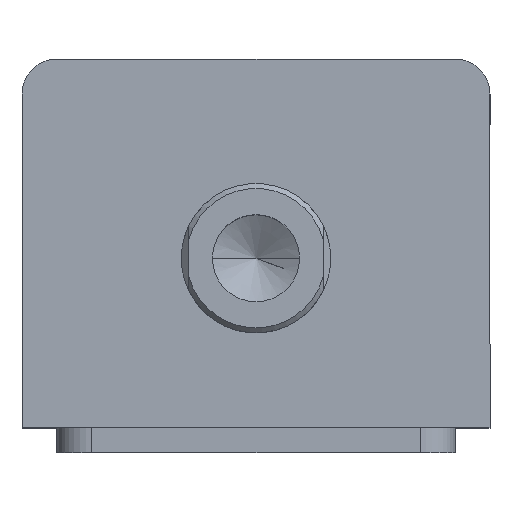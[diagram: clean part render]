
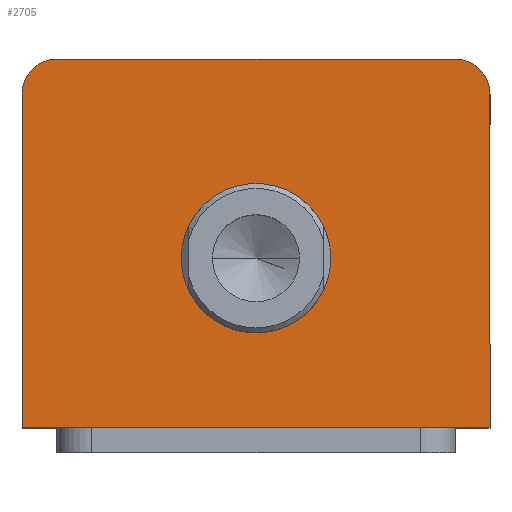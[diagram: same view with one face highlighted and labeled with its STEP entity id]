
A CAD part, top view. The second image highlights one B-rep face of the part: STEP entity #2705.
In plain terms, the highlighted planar face has unit normal (0, 0, 1).
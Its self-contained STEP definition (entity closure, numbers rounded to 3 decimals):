
#161 = LINE ( 'NONE', #2468, #165 ) ;
#165 = VECTOR ( 'NONE', #2492, 1000. ) ;
#173 = CIRCLE ( 'NONE', #2532, 7. ) ;
#201 = LINE ( 'NONE', #2376, #205 ) ;
#205 = VECTOR ( 'NONE', #2386, 1000. ) ;
#226 = CIRCLE ( 'NONE', #1841, 7. ) ;
#265 = LINE ( 'NONE', #997, #268 ) ;
#268 = VECTOR ( 'NONE', #995, 1000. ) ;
#556 = CIRCLE ( 'NONE', #897, 15. ) ;
#591 = LINE ( 'NONE', #956, #594 ) ;
#594 = VECTOR ( 'NONE', #954, 1000. ) ;
#603 = CIRCLE ( 'NONE', #883, 15. ) ;
#744 = FACE_BOUND ( 'NONE', #2213, .T. ) ;
#747 = FACE_OUTER_BOUND ( 'NONE', #2249, .T. ) ;
#818 = AXIS2_PLACEMENT_3D ( 'NONE', #1639, #1626, #1625 ) ;
#883 = AXIS2_PLACEMENT_3D ( 'NONE', #922, #921, #920 ) ;
#897 = AXIS2_PLACEMENT_3D ( 'NONE', #1032, #1031, #1030 ) ;
#920 = DIRECTION ( 'NONE',  ( 1., 0., 0. ) ) ;
#921 = DIRECTION ( 'NONE',  ( 0., 0., 1. ) ) ;
#922 = CARTESIAN_POINT ( 'NONE',  ( 0., -3., 70. ) ) ;
#954 = DIRECTION ( 'NONE',  ( 1., 0., 0. ) ) ;
#956 = CARTESIAN_POINT ( 'NONE',  ( -47., -37., 70. ) ) ;
#995 = DIRECTION ( 'NONE',  ( -1., 0., 0. ) ) ;
#997 = CARTESIAN_POINT ( 'NONE',  ( -47., 37., 70. ) ) ;
#1030 = DIRECTION ( 'NONE',  ( 1., 0., 0. ) ) ;
#1031 = DIRECTION ( 'NONE',  ( 0., 0., 1. ) ) ;
#1032 = CARTESIAN_POINT ( 'NONE',  ( 0., -3., 70. ) ) ;
#1186 = CARTESIAN_POINT ( 'NONE',  ( -47., 30., 70. ) ) ;
#1187 = CARTESIAN_POINT ( 'NONE',  ( 47., 30., 70. ) ) ;
#1222 = CARTESIAN_POINT ( 'NONE',  ( -40., 37., 70. ) ) ;
#1227 = CARTESIAN_POINT ( 'NONE',  ( 40., 37., 70. ) ) ;
#1258 = CARTESIAN_POINT ( 'NONE',  ( 47., -37., 70. ) ) ;
#1265 = CARTESIAN_POINT ( 'NONE',  ( -47., -37., 70. ) ) ;
#1288 = CARTESIAN_POINT ( 'NONE',  ( 15., -3., 70. ) ) ;
#1346 = VERTEX_POINT ( 'NONE', #2523 ) ;
#1625 = DIRECTION ( 'NONE',  ( 1., 0., 0. ) ) ;
#1626 = DIRECTION ( 'NONE',  ( 0., 0., 1. ) ) ;
#1628 = PLANE ( 'NONE',  #818 ) ;
#1639 = CARTESIAN_POINT ( 'NONE',  ( 0., 0., 70. ) ) ;
#1841 = AXIS2_PLACEMENT_3D ( 'NONE', #2315, #2314, #2313 ) ;
#1891 = EDGE_CURVE ( 'NONE', #2160, #2102, #161, .T. ) ;
#1902 = EDGE_CURVE ( 'NONE', #2132, #2160, #173, .T. ) ;
#1922 = EDGE_CURVE ( 'NONE', #2107, #2159, #201, .T. ) ;
#1943 = EDGE_CURVE ( 'NONE', #2159, #2129, #226, .T. ) ;
#1971 = EDGE_CURVE ( 'NONE', #2129, #2132, #265, .T. ) ;
#2083 = VERTEX_POINT ( 'NONE', #1288 ) ;
#2102 = VERTEX_POINT ( 'NONE', #1265 ) ;
#2107 = VERTEX_POINT ( 'NONE', #1258 ) ;
#2129 = VERTEX_POINT ( 'NONE', #1227 ) ;
#2132 = VERTEX_POINT ( 'NONE', #1222 ) ;
#2159 = VERTEX_POINT ( 'NONE', #1187 ) ;
#2160 = VERTEX_POINT ( 'NONE', #1186 ) ;
#2213 = EDGE_LOOP ( 'NONE', ( #2964, #2963 ) ) ;
#2249 = EDGE_LOOP ( 'NONE', ( #2962, #2961, #2960, #2959, #2958, #2957 ) ) ;
#2313 = DIRECTION ( 'NONE',  ( 1., 0., 0. ) ) ;
#2314 = DIRECTION ( 'NONE',  ( 0., 0., 1. ) ) ;
#2315 = CARTESIAN_POINT ( 'NONE',  ( 40., 30., 70. ) ) ;
#2376 = CARTESIAN_POINT ( 'NONE',  ( 47., 37., 70. ) ) ;
#2386 = DIRECTION ( 'NONE',  ( 0., 1., 0. ) ) ;
#2426 = DIRECTION ( 'NONE',  ( 1., 0., 0. ) ) ;
#2427 = DIRECTION ( 'NONE',  ( 0., 0., 1. ) ) ;
#2428 = CARTESIAN_POINT ( 'NONE',  ( -40., 30., 70. ) ) ;
#2468 = CARTESIAN_POINT ( 'NONE',  ( -47., 37., 70. ) ) ;
#2492 = DIRECTION ( 'NONE',  ( 0., -1., 0. ) ) ;
#2523 = CARTESIAN_POINT ( 'NONE',  ( -15., -3., 70. ) ) ;
#2532 = AXIS2_PLACEMENT_3D ( 'NONE', #2428, #2427, #2426 ) ;
#2590 = EDGE_CURVE ( 'NONE', #1346, #2083, #556, .T. ) ;
#2613 = EDGE_CURVE ( 'NONE', #2102, #2107, #591, .T. ) ;
#2620 = EDGE_CURVE ( 'NONE', #2083, #1346, #603, .T. ) ;
#2705 = ADVANCED_FACE ( 'NONE', ( #744, #747 ), #1628, .T. ) ;
#2957 = ORIENTED_EDGE ( 'NONE', *, *, #1943, .T. ) ;
#2958 = ORIENTED_EDGE ( 'NONE', *, *, #1922, .T. ) ;
#2959 = ORIENTED_EDGE ( 'NONE', *, *, #2613, .T. ) ;
#2960 = ORIENTED_EDGE ( 'NONE', *, *, #1891, .T. ) ;
#2961 = ORIENTED_EDGE ( 'NONE', *, *, #1902, .T. ) ;
#2962 = ORIENTED_EDGE ( 'NONE', *, *, #1971, .T. ) ;
#2963 = ORIENTED_EDGE ( 'NONE', *, *, #2590, .F. ) ;
#2964 = ORIENTED_EDGE ( 'NONE', *, *, #2620, .F. ) ;
